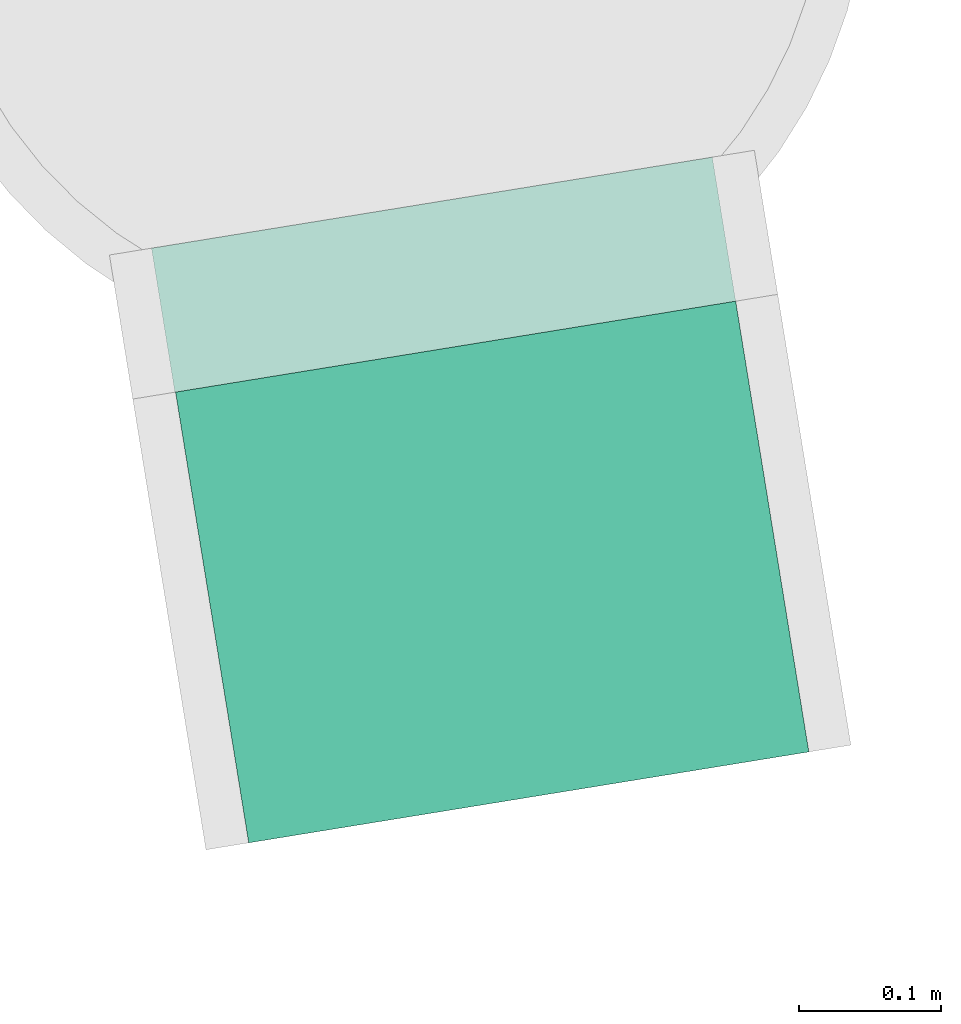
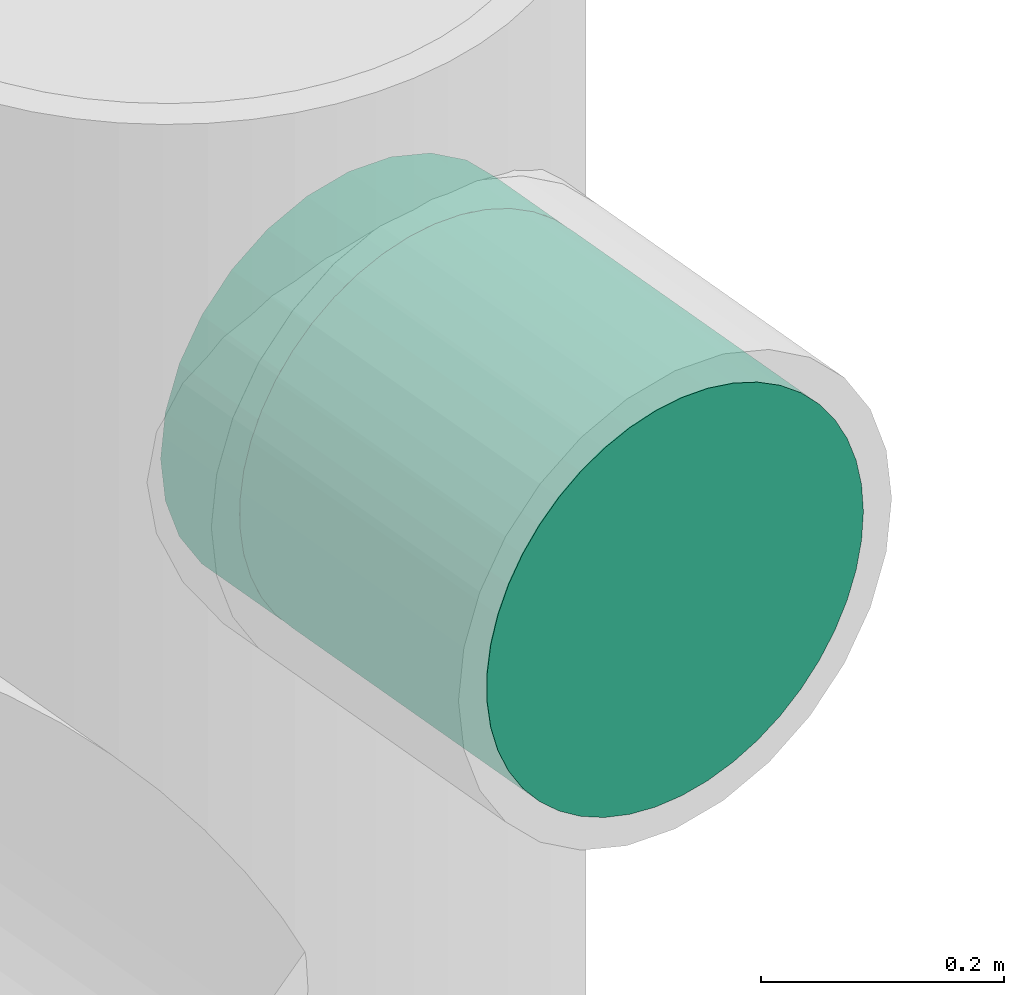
# One storey, part 14 of 39: 1 flow fitting, 1 flow segment.
"""IFC2X3 building model written with IfcOpenShell, lengths in millimetres."""

from ifc_helpers import new_model, entity, si_unit, converted_unit, derived_unit, direction, frame, frame_2d, origin, origin_with_axes, place, context, subcontext, project, spatial, circle, extrude, faceted_brep, source, transform, mapped, material, type_object, element, save


model = new_model("IFC2X3")

# Units and contexts
plan_context = context("Plan", 3, precision=1e-05, world=origin_with_axes())
model_context = context("Model", 3, precision=0.01, world=origin(), true_north=direction((6.12323399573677e-17, 1.0)))
body_context = subcontext(model_context, "Body", "Model", "MODEL_VIEW")
ifc_project = project(units=[converted_unit("PLANEANGLEUNIT", "DEGREE", entity("IfcPositiveLengthMeasure", 0.0174532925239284), si_unit("PLANEANGLEUNIT", "RADIAN"), dimensions=[0, 0, 0, 0, 0, 0, 0]), si_unit("AREAUNIT", "SQUARE_METRE"), si_unit("LENGTHUNIT", "METRE", prefix="MILLI"), si_unit("MASSUNIT", "GRAM", prefix="KILO"), si_unit("POWERUNIT", "WATT"), si_unit("PRESSUREUNIT", "PASCAL", prefix="KILO"), si_unit("FORCEUNIT", "NEWTON", prefix="KILO"), si_unit("ELECTRICVOLTAGEUNIT", "VOLT"), si_unit("ELECTRICCURRENTUNIT", "AMPERE"), si_unit("THERMODYNAMICTEMPERATUREUNIT", "DEGREE_CELSIUS"), si_unit("TIMEUNIT", "SECOND"), si_unit("VOLUMEUNIT", "CUBIC_METRE"), derived_unit("LINEARVELOCITYUNIT", [(si_unit("LENGTHUNIT", "METRE"), 1), (si_unit("TIMEUNIT", "SECOND"), -1)]), derived_unit("VOLUMETRICFLOWRATEUNIT", [(si_unit("VOLUMEUNIT", "CUBIC_METRE"), 1), (si_unit("TIMEUNIT", "SECOND"), -1)]), derived_unit("THERMALTRANSMITTANCEUNIT", [(si_unit("POWERUNIT", "WATT"), 1), (si_unit("THERMODYNAMICTEMPERATUREUNIT", "KELVIN"), -1), (si_unit("AREAUNIT", "SQUARE_METRE"), -1)]), derived_unit("SOUNDPRESSUREUNIT", [(si_unit("PRESSUREUNIT", "PASCAL"), 1)])], contexts=[model_context, plan_context])

# Site, building, storey
site_placement = place(None, frame((-0.00071070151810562, 0.00438415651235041, 0.0), z_axis=(0.0, 0.0, 1.0), x_axis=(-0.160236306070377, 0.987078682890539, 0.0)))
site = spatial("IfcSite", under=ifc_project, at=site_placement, Name="Default", CompositionType="ELEMENT")
building_placement = place(site_placement, origin_with_axes())
building = spatial("IfcBuilding", under=site, at=building_placement, CompositionType="ELEMENT")
storey_placement = place(building_placement, frame((0.0, 0.0, 58999.9999999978), z_axis=(0.0, 0.0, 1.0), x_axis=(1.0, 0.0, 0.0)))
storey = spatial("IfcBuildingStorey", under=building, at=storey_placement, Name="Nivå F", CompositionType="ELEMENT", Elevation=58999.9999999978)

# Flow fitting
ifc_material = material(Name="<Unnamed>")
duct_fitting_type = type_object("IfcDuctFittingType", Name="magicirc_tapoutlet_1:magicirc_tapoutlet_001", PredefinedType="NOTDEFINED", material=ifc_material)
shared_shape = source(origin(), body_context, "Body", "Brep", [
    faceted_brep([(-77.7341295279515, 0.0, -200.0), (-77.7341295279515, -44.5041867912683, -194.985582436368), (-77.7341295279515, -86.776747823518, -180.193773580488), (-77.7341295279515, -124.697960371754, -156.36629649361), (-77.7341295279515, -156.366296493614, -124.697960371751), (-77.7341295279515, -180.193773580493, -86.7767478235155), (-77.7341295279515, -194.985582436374, -44.5041867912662), (-77.7341295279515, -200.0, 0.0), (-77.7341295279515, -194.985582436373, 44.5041867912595), (-77.7341295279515, -180.193773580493, 86.7767478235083), (-77.7341295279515, -156.366296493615, 124.697960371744), (-77.7341295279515, -124.697960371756, 156.366296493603), (-77.7341295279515, -86.7767478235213, 180.193773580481), (-77.7341295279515, -44.5041867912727, 194.985582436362), (-77.7341295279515, 0.0, 200.0), (-77.7341295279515, 44.5041867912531, 194.985582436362), (-77.7341295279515, 86.7767478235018, 180.193773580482), (-77.7341295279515, 124.697960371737, 156.366296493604), (-77.7341295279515, 156.366296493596, 124.697960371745), (-77.7341295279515, 180.193773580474, 86.7767478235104), (-77.7341295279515, 194.985582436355, 44.5041867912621), (-77.7341295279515, 200.0, 0.0), (-77.7341295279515, 194.985582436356, -44.5041867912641), (-77.7341295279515, 180.193773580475, -86.7767478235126), (-77.7341295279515, 156.366296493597, -124.697960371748), (-77.7341295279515, 124.697960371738, -156.366296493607), (-77.7341295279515, 86.7767478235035, -180.193773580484), (-77.7341295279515, 44.504186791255, -194.985582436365), (0.0, 0.0, 200.0), (25.0, 0.0, 200.0), (25.0, 44.5041867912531, 194.985582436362), (0.0, 44.5041867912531, 194.985582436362), (25.0, 86.7767478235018, 180.193773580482), (0.0, 86.7767478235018, 180.193773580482), (0.0, 124.697960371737, 156.366296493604), (25.0, 124.697960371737, 156.366296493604), (25.0, 156.366296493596, 124.697960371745), (0.0, 156.366296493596, 124.697960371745), (25.0, 180.193773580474, 86.7767478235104), (0.0, 180.193773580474, 86.7767478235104), (0.0, 194.985582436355, 44.5041867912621), (25.0, 194.985582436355, 44.5041867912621), (25.0, 200.0, 0.0), (0.0, 200.0, 0.0), (25.0, 194.985582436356, -44.5041867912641), (0.0, 194.985582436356, -44.5041867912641), (25.0, 180.193773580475, -86.7767478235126), (0.0, 180.193773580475, -86.7767478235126), (0.0, 156.366296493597, -124.697960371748), (25.0, 156.366296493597, -124.697960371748), (25.0, 124.697960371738, -156.366296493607), (0.0, 124.697960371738, -156.366296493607), (25.0, 86.7767478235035, -180.193773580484), (0.0, 86.7767478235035, -180.193773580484), (25.0, 44.504186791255, -194.985582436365), (0.0, 44.504186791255, -194.985582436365), (0.0, 0.0, -200.0), (25.0, 0.0, -200.0), (25.0, -44.5041867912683, -194.985582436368), (0.0, -44.5041867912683, -194.985582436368), (25.0, -86.776747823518, -180.193773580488), (0.0, -86.776747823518, -180.193773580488), (0.0, -124.697960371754, -156.36629649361), (25.0, -124.697960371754, -156.36629649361), (25.0, -156.366296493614, -124.697960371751), (0.0, -156.366296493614, -124.697960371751), (25.0, -180.193773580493, -86.7767478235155), (0.0, -180.193773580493, -86.7767478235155), (25.0, -194.985582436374, -44.5041867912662), (0.0, -194.985582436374, -44.5041867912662), (25.0, -200.0, 0.0), (0.0, -200.0, 0.0), (25.0, -194.985582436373, 44.5041867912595), (0.0, -194.985582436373, 44.5041867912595), (25.0, -180.193773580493, 86.7767478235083), (0.0, -180.193773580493, 86.7767478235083), (0.0, -156.366296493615, 124.697960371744), (25.0, -156.366296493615, 124.697960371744), (25.0, -124.697960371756, 156.366296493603), (0.0, -124.697960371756, 156.366296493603), (25.0, -86.7767478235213, 180.193773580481), (0.0, -86.7767478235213, 180.193773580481), (0.0, -44.5041867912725, 194.985582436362), (25.0, -44.5041867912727, 194.985582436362)], [[[0, 1, 2, 3, 4, 5, 6, 7, 8, 9, 10, 11, 12, 13, 14, 15, 16, 17, 18, 19, 20, 21, 22, 23, 24, 25, 26, 27]], [[14, 28, 29, 30, 31, 15]], [[31, 30, 32, 33, 16, 15]], [[34, 17, 16, 33, 32, 35]], [[34, 35, 36, 37, 18, 17]], [[18, 37, 36, 38, 39, 19]], [[40, 41, 42, 43, 21, 20]], [[20, 19, 39, 38, 41, 40]], [[21, 43, 42, 44, 45, 22]], [[45, 44, 46, 47, 23, 22]], [[48, 24, 23, 47, 46, 49]], [[48, 49, 50, 51, 25, 24]], [[25, 51, 50, 52, 53, 26]], [[53, 52, 54, 55, 27, 26]], [[56, 0, 27, 55, 54, 57]], [[0, 56, 57, 58, 59, 1]], [[59, 58, 60, 61, 2, 1]], [[62, 3, 2, 61, 60, 63]], [[62, 63, 64, 65, 4, 3]], [[65, 64, 66, 67, 5, 4]], [[67, 66, 68, 69, 6, 5]], [[7, 6, 69, 68, 70, 71]], [[7, 71, 70, 72, 73, 8]], [[73, 72, 74, 75, 9, 8]], [[76, 10, 9, 75, 74, 77]], [[76, 77, 78, 79, 11, 10]], [[79, 78, 80, 81, 12, 11]], [[82, 83, 29, 28, 14, 13]], [[81, 80, 83, 82, 13, 12]], [[57, 54, 52, 50, 49, 46, 44, 42, 41, 38, 36, 35, 32, 30, 29, 83, 80, 78, 77, 74, 72, 70, 68, 66, 64, 63, 60, 58]]]),
    faceted_brep([(25.0, 0.0, -200.0), (25.0, 44.5041867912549, -194.985582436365), (25.0, 86.7767478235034, -180.193773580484), (25.0, 124.697960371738, -156.366296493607), (25.0, 156.366296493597, -124.697960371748), (25.0, 180.193773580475, -86.7767478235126), (25.0, 194.985582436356, -44.5041867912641), (25.0, 200.0, 0.0), (25.0, 194.985582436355, 44.5041867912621), (25.0, 180.193773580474, 86.7767478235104), (25.0, 156.366296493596, 124.697960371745), (25.0, 124.697960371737, 156.366296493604), (25.0, 86.7767478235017, 180.193773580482), (25.0, 44.504186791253, 194.985582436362), (25.0, 0.0, 200.0), (25.0, -44.5041867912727, 194.985582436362), (25.0, -86.7767478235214, 180.193773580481), (25.0, -124.697960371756, 156.366296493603), (25.0, -156.366296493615, 124.697960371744), (25.0, -180.193773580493, 86.7767478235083), (25.0, -194.985582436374, 44.5041867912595), (25.0, -200.0, 0.0), (25.0, -194.985582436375, -44.5041867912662), (25.0, -180.193773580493, -86.7767478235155), (25.0, -156.366296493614, -124.697960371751), (25.0, -124.697960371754, -156.36629649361), (25.0, -86.7767478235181, -180.193773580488), (25.0, -44.5041867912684, -194.985582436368), (0.0, 0.0, 200.0), (0.0, 44.5041867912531, 194.985582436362), (-77.7341295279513, 44.5041867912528, 194.985582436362), (-77.7341295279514, 0.0, 200.0), (0.0, 86.7767478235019, 180.193773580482), (-77.7341295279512, 86.7767478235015, 180.193773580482), (0.0, 124.697960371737, 156.366296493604), (-77.734129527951, 124.697960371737, 156.366296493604), (0.0, 156.366296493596, 124.697960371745), (-77.7341295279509, 156.366296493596, 124.697960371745), (0.0, 180.193773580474, 86.7767478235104), (-77.7341295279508, 180.193773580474, 86.7767478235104), (0.0, 194.985582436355, 44.5041867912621), (-77.7341295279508, 194.985582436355, 44.5041867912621), (0.0, 200.0, 0.0), (-77.7341295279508, 200.0, 0.0), (0.0, 194.985582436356, -44.5041867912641), (-77.7341295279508, 194.985582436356, -44.5041867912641), (0.0, 180.193773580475, -86.7767478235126), (-77.7341295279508, 180.193773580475, -86.7767478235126), (0.0, 156.366296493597, -124.697960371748), (-77.7341295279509, 156.366296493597, -124.697960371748), (0.0, 124.697960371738, -156.366296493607), (-77.734129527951, 124.697960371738, -156.366296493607), (0.0, 86.7767478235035, -180.193773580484), (-77.7341295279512, 86.7767478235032, -180.193773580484), (0.0, 44.5041867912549, -194.985582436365), (-77.7341295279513, 44.5041867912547, -194.985582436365), (0.0, 0.0, -200.0), (-77.7341295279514, 0.0, -200.0), (0.0, -44.5041867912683, -194.985582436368), (-77.7341295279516, -44.5041867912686, -194.985582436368), (0.0, -86.776747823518, -180.193773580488), (-77.7341295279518, -86.7767478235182, -180.193773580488), (0.0, -124.697960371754, -156.36629649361), (-77.7341295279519, -124.697960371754, -156.36629649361), (0.0, -156.366296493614, -124.697960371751), (-77.734129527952, -156.366296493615, -124.697960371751), (0.0, -180.193773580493, -86.7767478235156), (-77.734129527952, -180.193773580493, -86.7767478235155), (0.0, -200.0, 0.0), (-77.7341295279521, -200.0, 0.0), (-77.7341295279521, -194.985582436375, -44.5041867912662), (0.0, -194.985582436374, -44.5041867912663), (0.0, -194.985582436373, 44.5041867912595), (-77.7341295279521, -194.985582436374, 44.5041867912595), (0.0, -180.193773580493, 86.7767478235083), (-77.734129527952, -180.193773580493, 86.7767478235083), (0.0, -156.366296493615, 124.697960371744), (-77.734129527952, -156.366296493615, 124.697960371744), (0.0, -124.697960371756, 156.366296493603), (-77.7341295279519, -124.697960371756, 156.366296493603), (0.0, -86.7767478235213, 180.193773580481), (-77.7341295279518, -86.7767478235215, 180.193773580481), (0.0, -44.5041867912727, 194.985582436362), (-77.7341295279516, -44.5041867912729, 194.985582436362)], [[[0, 1, 2, 3, 4, 5, 6, 7, 8, 9, 10, 11, 12, 13, 14, 15, 16, 17, 18, 19, 20, 21, 22, 23, 24, 25, 26, 27]], [[28, 14, 13, 29, 30, 31]], [[13, 12, 32, 33, 30, 29]], [[11, 34, 35, 33, 32, 12]], [[11, 10, 36, 37, 35, 34]], [[36, 10, 9, 38, 39, 37]], [[9, 8, 40, 41, 39, 38]], [[7, 42, 43, 41, 40, 8]], [[42, 7, 6, 44, 45, 43]], [[6, 5, 46, 47, 45, 44]], [[4, 48, 49, 47, 46, 5]], [[4, 3, 50, 51, 49, 48]], [[3, 2, 52, 53, 51, 50]], [[2, 1, 54, 55, 53, 52]], [[56, 57, 55, 54, 1, 0]], [[56, 0, 27, 58, 59, 57]], [[27, 26, 60, 61, 59, 58]], [[25, 62, 63, 61, 60, 26]], [[25, 24, 64, 65, 63, 62]], [[24, 23, 66, 67, 65, 64]], [[22, 21, 68, 69, 70, 71]], [[23, 22, 71, 70, 67, 66]], [[68, 21, 20, 72, 73, 69]], [[20, 19, 74, 75, 73, 72]], [[18, 76, 77, 75, 74, 19]], [[18, 17, 78, 79, 77, 76]], [[78, 17, 16, 80, 81, 79]], [[16, 15, 82, 83, 81, 80]], [[14, 28, 31, 83, 82, 15]], [[57, 59, 61, 63, 65, 67, 70, 69, 73, 75, 77, 79, 81, 83, 31, 30, 33, 35, 37, 39, 41, 43, 45, 47, 49, 51, 53, 55]]]),
    faceted_brep([(-77.7341295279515, 0.0, -200.0), (-77.7341295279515, -44.5041867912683, -194.985582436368), (-77.7341295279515, -86.776747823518, -180.193773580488), (-77.7341295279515, -124.697960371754, -156.36629649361), (-77.7341295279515, -156.366296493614, -124.697960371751), (-77.7341295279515, -180.193773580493, -86.7767478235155), (-77.7341295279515, -194.985582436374, -44.5041867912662), (-77.7341295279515, -200.0, 0.0), (-77.7341295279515, -194.985582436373, 44.5041867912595), (-77.7341295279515, -180.193773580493, 86.7767478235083), (-77.7341295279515, -156.366296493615, 124.697960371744), (-77.7341295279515, -124.697960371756, 156.366296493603), (-77.7341295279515, -86.7767478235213, 180.193773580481), (-77.7341295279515, -44.5041867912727, 194.985582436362), (-77.7341295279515, 0.0, 200.0), (-77.7341295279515, 44.5041867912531, 194.985582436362), (-77.7341295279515, 86.7767478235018, 180.193773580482), (-77.7341295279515, 124.697960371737, 156.366296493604), (-77.7341295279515, 156.366296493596, 124.697960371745), (-77.7341295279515, 180.193773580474, 86.7767478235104), (-77.7341295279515, 194.985582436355, 44.5041867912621), (-77.7341295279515, 200.0, 0.0), (-77.7341295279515, 194.985582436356, -44.5041867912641), (-77.7341295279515, 180.193773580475, -86.7767478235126), (-77.7341295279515, 156.366296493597, -124.697960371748), (-77.7341295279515, 124.697960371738, -156.366296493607), (-77.7341295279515, 86.7767478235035, -180.193773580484), (-77.7341295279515, 44.504186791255, -194.985582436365), (0.0, 0.0, 200.0), (25.0, 0.0, 200.0), (25.0, 44.5041867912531, 194.985582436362), (0.0, 44.5041867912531, 194.985582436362), (25.0, 86.7767478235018, 180.193773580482), (0.0, 86.7767478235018, 180.193773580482), (0.0, 124.697960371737, 156.366296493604), (25.0, 124.697960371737, 156.366296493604), (25.0, 156.366296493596, 124.697960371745), (0.0, 156.366296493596, 124.697960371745), (25.0, 180.193773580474, 86.7767478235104), (0.0, 180.193773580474, 86.7767478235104), (0.0, 194.985582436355, 44.5041867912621), (25.0, 194.985582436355, 44.5041867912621), (25.0, 200.0, 0.0), (0.0, 200.0, 0.0), (25.0, 194.985582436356, -44.5041867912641), (0.0, 194.985582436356, -44.5041867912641), (25.0, 180.193773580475, -86.7767478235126), (0.0, 180.193773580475, -86.7767478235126), (0.0, 156.366296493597, -124.697960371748), (25.0, 156.366296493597, -124.697960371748), (25.0, 124.697960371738, -156.366296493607), (0.0, 124.697960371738, -156.366296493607), (25.0, 86.7767478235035, -180.193773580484), (0.0, 86.7767478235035, -180.193773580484), (25.0, 44.504186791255, -194.985582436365), (0.0, 44.504186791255, -194.985582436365), (0.0, 0.0, -200.0), (25.0, 0.0, -200.0), (25.0, -44.5041867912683, -194.985582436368), (0.0, -44.5041867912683, -194.985582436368), (25.0, -86.776747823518, -180.193773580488), (0.0, -86.776747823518, -180.193773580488), (0.0, -124.697960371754, -156.36629649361), (25.0, -124.697960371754, -156.36629649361), (25.0, -156.366296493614, -124.697960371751), (0.0, -156.366296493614, -124.697960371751), (25.0, -180.193773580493, -86.7767478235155), (0.0, -180.193773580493, -86.7767478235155), (25.0, -194.985582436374, -44.5041867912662), (0.0, -194.985582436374, -44.5041867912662), (25.0, -200.0, 0.0), (0.0, -200.0, 0.0), (25.0, -194.985582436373, 44.5041867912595), (0.0, -194.985582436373, 44.5041867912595), (25.0, -180.193773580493, 86.7767478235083), (0.0, -180.193773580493, 86.7767478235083), (0.0, -156.366296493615, 124.697960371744), (25.0, -156.366296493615, 124.697960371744), (25.0, -124.697960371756, 156.366296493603), (0.0, -124.697960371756, 156.366296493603), (25.0, -86.7767478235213, 180.193773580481), (0.0, -86.7767478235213, 180.193773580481), (0.0, -44.5041867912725, 194.985582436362), (25.0, -44.5041867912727, 194.985582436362)], [[[0, 1, 2, 3, 4, 5, 6, 7, 8, 9, 10, 11, 12, 13, 14, 15, 16, 17, 18, 19, 20, 21, 22, 23, 24, 25, 26, 27]], [[14, 28, 29, 30, 31, 15]], [[31, 30, 32, 33, 16, 15]], [[34, 17, 16, 33, 32, 35]], [[34, 35, 36, 37, 18, 17]], [[18, 37, 36, 38, 39, 19]], [[40, 41, 42, 43, 21, 20]], [[20, 19, 39, 38, 41, 40]], [[21, 43, 42, 44, 45, 22]], [[45, 44, 46, 47, 23, 22]], [[48, 24, 23, 47, 46, 49]], [[48, 49, 50, 51, 25, 24]], [[25, 51, 50, 52, 53, 26]], [[53, 52, 54, 55, 27, 26]], [[56, 0, 27, 55, 54, 57]], [[0, 56, 57, 58, 59, 1]], [[59, 58, 60, 61, 2, 1]], [[62, 3, 2, 61, 60, 63]], [[62, 63, 64, 65, 4, 3]], [[65, 64, 66, 67, 5, 4]], [[67, 66, 68, 69, 6, 5]], [[7, 6, 69, 68, 70, 71]], [[7, 71, 70, 72, 73, 8]], [[73, 72, 74, 75, 9, 8]], [[76, 10, 9, 75, 74, 77]], [[76, 77, 78, 79, 11, 10]], [[79, 78, 80, 81, 12, 11]], [[82, 83, 29, 28, 14, 13]], [[81, 80, 83, 82, 13, 12]], [[57, 54, 52, 50, 49, 46, 44, 42, 41, 38, 36, 35, 32, 30, 29, 83, 80, 78, 77, 74, 72, 70, 68, 66, 64, 63, 60, 58]]]),
])
flow_fitting_placement = place(storey_placement, frame((763555.86087582, -503270.008615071, 3199.99998017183), z_axis=(0.0, 1.0, 0.0), x_axis=(-1.0, 0.0, 0.0)))
element("IfcFlowFitting", 1, at=flow_fitting_placement, inside=storey, type_object=duct_fitting_type, material=ifc_material, Name="magicirc_tapoutlet_1:magicirc_tapoutlet_001", ObjectType="magicirc_tapoutlet_1:magicirc_tapoutlet_001", context=body_context, shape_type="MappedRepresentation", body=[
    mapped(shared_shape, transform((0.0, 0.0, 0.0), scale=1.0)),
])

# Flow segment
duct_segment_type = type_object("IfcDuctSegmentType", Name="Round Duct:KK001T - Spiro kanaler, Forsinket stål", PredefinedType="NOTDEFINED")
flow_segment_placement = place(storey_placement, origin_with_axes())
element("IfcFlowSegment", 2, at=flow_segment_placement, inside=storey, type_object=duct_segment_type, Name="Round Duct:KK001T - Spiro kanaler, Forsinket stål", ObjectType="Round Duct:KK001T - Spiro kanaler, Forsinket stål", context=body_context, shape_type="SweptSolid", body=[
    extrude(circle(Radius=200.0, at=frame_2d((0.0, 8.66293703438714e-12), x_axis=(1.0, 0.0))), frame((763209.369644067, -503270.008615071, 3199.99998017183), z_axis=(1.0, 0.0, 0.0), x_axis=(0.0, -1.0, 0.0)), (0.0, 0.0, 1.0), 321.491231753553),
])

save(model, "model.ifc")
